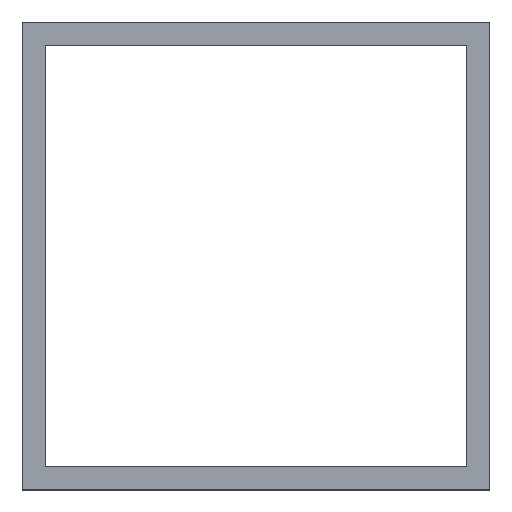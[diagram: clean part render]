
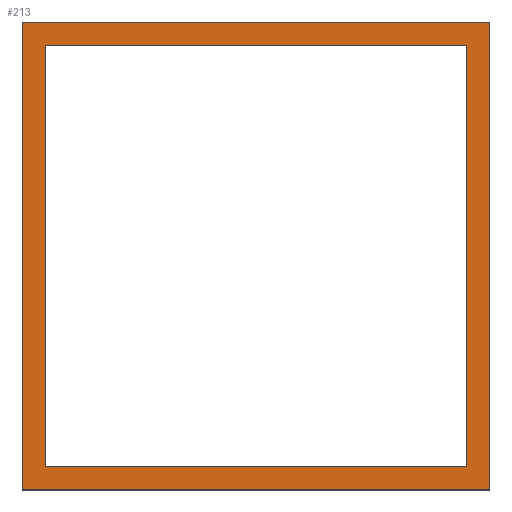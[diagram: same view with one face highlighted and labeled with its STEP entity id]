
A CAD part, top view. The second image highlights one B-rep face of the part: STEP entity #213.
In plain terms, the highlighted planar face has unit normal (0, 0, 1).
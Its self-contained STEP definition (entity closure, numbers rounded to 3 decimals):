
#24 = VERTEX_POINT('',#25);
#25 = CARTESIAN_POINT('',(0.,0.,2.));
#32 = PLANE('',#33);
#33 = AXIS2_PLACEMENT_3D('',#34,#35,#36);
#34 = CARTESIAN_POINT('',(0.,0.,0.));
#35 = DIRECTION('',(1.,0.,-0.));
#36 = DIRECTION('',(0.,0.,1.));
#44 = PLANE('',#45);
#45 = AXIS2_PLACEMENT_3D('',#46,#47,#48);
#46 = CARTESIAN_POINT('',(0.,0.,0.));
#47 = DIRECTION('',(-0.,1.,0.));
#48 = DIRECTION('',(0.,0.,1.));
#85 = VERTEX_POINT('',#86);
#86 = CARTESIAN_POINT('',(0.,20.,2.));
#100 = PLANE('',#101);
#101 = AXIS2_PLACEMENT_3D('',#102,#103,#104);
#102 = CARTESIAN_POINT('',(0.,20.,0.));
#103 = DIRECTION('',(-0.,1.,0.));
#104 = DIRECTION('',(0.,0.,1.));
#112 = EDGE_CURVE('',#24,#85,#113,.T.);
#113 = SURFACE_CURVE('',#114,(#118,#125),.PCURVE_S1.);
#114 = LINE('',#115,#116);
#115 = CARTESIAN_POINT('',(0.,0.,2.));
#116 = VECTOR('',#117,1.);
#117 = DIRECTION('',(-0.,1.,0.));
#118 = PCURVE('',#32,#119);
#119 = DEFINITIONAL_REPRESENTATION('',(#120),#124);
#120 = LINE('',#121,#122);
#121 = CARTESIAN_POINT('',(2.,0.));
#122 = VECTOR('',#123,1.);
#123 = DIRECTION('',(0.,-1.));
#124 = ( GEOMETRIC_REPRESENTATION_CONTEXT(2) 
PARAMETRIC_REPRESENTATION_CONTEXT() REPRESENTATION_CONTEXT('2D SPACE',''
  ) );
#125 = PCURVE('',#126,#131);
#126 = PLANE('',#127);
#127 = AXIS2_PLACEMENT_3D('',#128,#129,#130);
#128 = CARTESIAN_POINT('',(0.,0.,2.));
#129 = DIRECTION('',(0.,0.,1.));
#130 = DIRECTION('',(1.,0.,-0.));
#131 = DEFINITIONAL_REPRESENTATION('',(#132),#136);
#132 = LINE('',#133,#134);
#133 = CARTESIAN_POINT('',(0.,0.));
#134 = VECTOR('',#135,1.);
#135 = DIRECTION('',(0.,1.));
#136 = ( GEOMETRIC_REPRESENTATION_CONTEXT(2) 
PARAMETRIC_REPRESENTATION_CONTEXT() REPRESENTATION_CONTEXT('2D SPACE',''
  ) );
#165 = EDGE_CURVE('',#24,#166,#168,.T.);
#166 = VERTEX_POINT('',#167);
#167 = CARTESIAN_POINT('',(20.,0.,2.));
#168 = SURFACE_CURVE('',#169,(#173,#180),.PCURVE_S1.);
#169 = LINE('',#170,#171);
#170 = CARTESIAN_POINT('',(0.,0.,2.));
#171 = VECTOR('',#172,1.);
#172 = DIRECTION('',(1.,0.,-0.));
#173 = PCURVE('',#44,#174);
#174 = DEFINITIONAL_REPRESENTATION('',(#175),#179);
#175 = LINE('',#176,#177);
#176 = CARTESIAN_POINT('',(2.,0.));
#177 = VECTOR('',#178,1.);
#178 = DIRECTION('',(0.,1.));
#179 = ( GEOMETRIC_REPRESENTATION_CONTEXT(2) 
PARAMETRIC_REPRESENTATION_CONTEXT() REPRESENTATION_CONTEXT('2D SPACE',''
  ) );
#180 = PCURVE('',#126,#181);
#181 = DEFINITIONAL_REPRESENTATION('',(#182),#186);
#182 = LINE('',#183,#184);
#183 = CARTESIAN_POINT('',(0.,0.));
#184 = VECTOR('',#185,1.);
#185 = DIRECTION('',(1.,0.));
#186 = ( GEOMETRIC_REPRESENTATION_CONTEXT(2) 
PARAMETRIC_REPRESENTATION_CONTEXT() REPRESENTATION_CONTEXT('2D SPACE',''
  ) );
#202 = PLANE('',#203);
#203 = AXIS2_PLACEMENT_3D('',#204,#205,#206);
#204 = CARTESIAN_POINT('',(20.,0.,0.));
#205 = DIRECTION('',(1.,0.,-0.));
#206 = DIRECTION('',(0.,0.,1.));
#213 = ADVANCED_FACE('',(#214,#262),#126,.T.);
#214 = FACE_BOUND('',#215,.T.);
#215 = EDGE_LOOP('',(#216,#217,#218,#241));
#216 = ORIENTED_EDGE('',*,*,#112,.F.);
#217 = ORIENTED_EDGE('',*,*,#165,.T.);
#218 = ORIENTED_EDGE('',*,*,#219,.T.);
#219 = EDGE_CURVE('',#166,#220,#222,.T.);
#220 = VERTEX_POINT('',#221);
#221 = CARTESIAN_POINT('',(20.,20.,2.));
#222 = SURFACE_CURVE('',#223,(#227,#234),.PCURVE_S1.);
#223 = LINE('',#224,#225);
#224 = CARTESIAN_POINT('',(20.,0.,2.));
#225 = VECTOR('',#226,1.);
#226 = DIRECTION('',(-0.,1.,0.));
#227 = PCURVE('',#126,#228);
#228 = DEFINITIONAL_REPRESENTATION('',(#229),#233);
#229 = LINE('',#230,#231);
#230 = CARTESIAN_POINT('',(20.,0.));
#231 = VECTOR('',#232,1.);
#232 = DIRECTION('',(0.,1.));
#233 = ( GEOMETRIC_REPRESENTATION_CONTEXT(2) 
PARAMETRIC_REPRESENTATION_CONTEXT() REPRESENTATION_CONTEXT('2D SPACE',''
  ) );
#234 = PCURVE('',#202,#235);
#235 = DEFINITIONAL_REPRESENTATION('',(#236),#240);
#236 = LINE('',#237,#238);
#237 = CARTESIAN_POINT('',(2.,0.));
#238 = VECTOR('',#239,1.);
#239 = DIRECTION('',(0.,-1.));
#240 = ( GEOMETRIC_REPRESENTATION_CONTEXT(2) 
PARAMETRIC_REPRESENTATION_CONTEXT() REPRESENTATION_CONTEXT('2D SPACE',''
  ) );
#241 = ORIENTED_EDGE('',*,*,#242,.F.);
#242 = EDGE_CURVE('',#85,#220,#243,.T.);
#243 = SURFACE_CURVE('',#244,(#248,#255),.PCURVE_S1.);
#244 = LINE('',#245,#246);
#245 = CARTESIAN_POINT('',(0.,20.,2.));
#246 = VECTOR('',#247,1.);
#247 = DIRECTION('',(1.,0.,-0.));
#248 = PCURVE('',#126,#249);
#249 = DEFINITIONAL_REPRESENTATION('',(#250),#254);
#250 = LINE('',#251,#252);
#251 = CARTESIAN_POINT('',(0.,20.));
#252 = VECTOR('',#253,1.);
#253 = DIRECTION('',(1.,0.));
#254 = ( GEOMETRIC_REPRESENTATION_CONTEXT(2) 
PARAMETRIC_REPRESENTATION_CONTEXT() REPRESENTATION_CONTEXT('2D SPACE',''
  ) );
#255 = PCURVE('',#100,#256);
#256 = DEFINITIONAL_REPRESENTATION('',(#257),#261);
#257 = LINE('',#258,#259);
#258 = CARTESIAN_POINT('',(2.,0.));
#259 = VECTOR('',#260,1.);
#260 = DIRECTION('',(0.,1.));
#261 = ( GEOMETRIC_REPRESENTATION_CONTEXT(2) 
PARAMETRIC_REPRESENTATION_CONTEXT() REPRESENTATION_CONTEXT('2D SPACE',''
  ) );
#262 = FACE_BOUND('',#263,.T.);
#263 = EDGE_LOOP('',(#264,#292,#318,#344));
#264 = ORIENTED_EDGE('',*,*,#265,.T.);
#265 = EDGE_CURVE('',#266,#268,#270,.T.);
#266 = VERTEX_POINT('',#267);
#267 = CARTESIAN_POINT('',(19.,1.,2.));
#268 = VERTEX_POINT('',#269);
#269 = CARTESIAN_POINT('',(1.,1.,2.));
#270 = SURFACE_CURVE('',#271,(#275,#281),.PCURVE_S1.);
#271 = LINE('',#272,#273);
#272 = CARTESIAN_POINT('',(0.5,1.,2.));
#273 = VECTOR('',#274,1.);
#274 = DIRECTION('',(-1.,-0.,0.));
#275 = PCURVE('',#126,#276);
#276 = DEFINITIONAL_REPRESENTATION('',(#277),#280);
#277 = B_SPLINE_CURVE_WITH_KNOTS('',1,(#278,#279),.UNSPECIFIED.,.F.,.F.,
  (2,2),(-18.5,-0.5),.PIECEWISE_BEZIER_KNOTS.);
#278 = CARTESIAN_POINT('',(19.,1.));
#279 = CARTESIAN_POINT('',(1.,1.));
#280 = ( GEOMETRIC_REPRESENTATION_CONTEXT(2) 
PARAMETRIC_REPRESENTATION_CONTEXT() REPRESENTATION_CONTEXT('2D SPACE',''
  ) );
#281 = PCURVE('',#282,#287);
#282 = PLANE('',#283);
#283 = AXIS2_PLACEMENT_3D('',#284,#285,#286);
#284 = CARTESIAN_POINT('',(1.,1.,-1.));
#285 = DIRECTION('',(-0.,1.,0.));
#286 = DIRECTION('',(0.,0.,1.));
#287 = DEFINITIONAL_REPRESENTATION('',(#288),#291);
#288 = B_SPLINE_CURVE_WITH_KNOTS('',1,(#289,#290),.UNSPECIFIED.,.F.,.F.,
  (2,2),(-18.5,-0.5),.PIECEWISE_BEZIER_KNOTS.);
#289 = CARTESIAN_POINT('',(3.,18.));
#290 = CARTESIAN_POINT('',(3.,0.));
#291 = ( GEOMETRIC_REPRESENTATION_CONTEXT(2) 
PARAMETRIC_REPRESENTATION_CONTEXT() REPRESENTATION_CONTEXT('2D SPACE',''
  ) );
#292 = ORIENTED_EDGE('',*,*,#293,.T.);
#293 = EDGE_CURVE('',#268,#294,#296,.T.);
#294 = VERTEX_POINT('',#295);
#295 = CARTESIAN_POINT('',(1.,19.,2.));
#296 = SURFACE_CURVE('',#297,(#301,#307),.PCURVE_S1.);
#297 = LINE('',#298,#299);
#298 = CARTESIAN_POINT('',(1.,0.5,2.));
#299 = VECTOR('',#300,1.);
#300 = DIRECTION('',(-0.,1.,0.));
#301 = PCURVE('',#126,#302);
#302 = DEFINITIONAL_REPRESENTATION('',(#303),#306);
#303 = B_SPLINE_CURVE_WITH_KNOTS('',1,(#304,#305),.UNSPECIFIED.,.F.,.F.,
  (2,2),(0.5,18.5),.PIECEWISE_BEZIER_KNOTS.);
#304 = CARTESIAN_POINT('',(1.,1.));
#305 = CARTESIAN_POINT('',(1.,19.));
#306 = ( GEOMETRIC_REPRESENTATION_CONTEXT(2) 
PARAMETRIC_REPRESENTATION_CONTEXT() REPRESENTATION_CONTEXT('2D SPACE',''
  ) );
#307 = PCURVE('',#308,#313);
#308 = PLANE('',#309);
#309 = AXIS2_PLACEMENT_3D('',#310,#311,#312);
#310 = CARTESIAN_POINT('',(1.,1.,-1.));
#311 = DIRECTION('',(1.,0.,-0.));
#312 = DIRECTION('',(0.,0.,1.));
#313 = DEFINITIONAL_REPRESENTATION('',(#314),#317);
#314 = B_SPLINE_CURVE_WITH_KNOTS('',1,(#315,#316),.UNSPECIFIED.,.F.,.F.,
  (2,2),(0.5,18.5),.PIECEWISE_BEZIER_KNOTS.);
#315 = CARTESIAN_POINT('',(3.,0.));
#316 = CARTESIAN_POINT('',(3.,-18.));
#317 = ( GEOMETRIC_REPRESENTATION_CONTEXT(2) 
PARAMETRIC_REPRESENTATION_CONTEXT() REPRESENTATION_CONTEXT('2D SPACE',''
  ) );
#318 = ORIENTED_EDGE('',*,*,#319,.F.);
#319 = EDGE_CURVE('',#320,#294,#322,.T.);
#320 = VERTEX_POINT('',#321);
#321 = CARTESIAN_POINT('',(19.,19.,2.));
#322 = SURFACE_CURVE('',#323,(#327,#333),.PCURVE_S1.);
#323 = LINE('',#324,#325);
#324 = CARTESIAN_POINT('',(0.5,19.,2.));
#325 = VECTOR('',#326,1.);
#326 = DIRECTION('',(-1.,-0.,0.));
#327 = PCURVE('',#126,#328);
#328 = DEFINITIONAL_REPRESENTATION('',(#329),#332);
#329 = B_SPLINE_CURVE_WITH_KNOTS('',1,(#330,#331),.UNSPECIFIED.,.F.,.F.,
  (2,2),(-18.5,-0.5),.PIECEWISE_BEZIER_KNOTS.);
#330 = CARTESIAN_POINT('',(19.,19.));
#331 = CARTESIAN_POINT('',(1.,19.));
#332 = ( GEOMETRIC_REPRESENTATION_CONTEXT(2) 
PARAMETRIC_REPRESENTATION_CONTEXT() REPRESENTATION_CONTEXT('2D SPACE',''
  ) );
#333 = PCURVE('',#334,#339);
#334 = PLANE('',#335);
#335 = AXIS2_PLACEMENT_3D('',#336,#337,#338);
#336 = CARTESIAN_POINT('',(1.,19.,-1.));
#337 = DIRECTION('',(-0.,1.,0.));
#338 = DIRECTION('',(0.,0.,1.));
#339 = DEFINITIONAL_REPRESENTATION('',(#340),#343);
#340 = B_SPLINE_CURVE_WITH_KNOTS('',1,(#341,#342),.UNSPECIFIED.,.F.,.F.,
  (2,2),(-18.5,-0.5),.PIECEWISE_BEZIER_KNOTS.);
#341 = CARTESIAN_POINT('',(3.,18.));
#342 = CARTESIAN_POINT('',(3.,0.));
#343 = ( GEOMETRIC_REPRESENTATION_CONTEXT(2) 
PARAMETRIC_REPRESENTATION_CONTEXT() REPRESENTATION_CONTEXT('2D SPACE',''
  ) );
#344 = ORIENTED_EDGE('',*,*,#345,.F.);
#345 = EDGE_CURVE('',#266,#320,#346,.T.);
#346 = SURFACE_CURVE('',#347,(#351,#357),.PCURVE_S1.);
#347 = LINE('',#348,#349);
#348 = CARTESIAN_POINT('',(19.,0.5,2.));
#349 = VECTOR('',#350,1.);
#350 = DIRECTION('',(-0.,1.,0.));
#351 = PCURVE('',#126,#352);
#352 = DEFINITIONAL_REPRESENTATION('',(#353),#356);
#353 = B_SPLINE_CURVE_WITH_KNOTS('',1,(#354,#355),.UNSPECIFIED.,.F.,.F.,
  (2,2),(0.5,18.5),.PIECEWISE_BEZIER_KNOTS.);
#354 = CARTESIAN_POINT('',(19.,1.));
#355 = CARTESIAN_POINT('',(19.,19.));
#356 = ( GEOMETRIC_REPRESENTATION_CONTEXT(2) 
PARAMETRIC_REPRESENTATION_CONTEXT() REPRESENTATION_CONTEXT('2D SPACE',''
  ) );
#357 = PCURVE('',#358,#363);
#358 = PLANE('',#359);
#359 = AXIS2_PLACEMENT_3D('',#360,#361,#362);
#360 = CARTESIAN_POINT('',(19.,1.,-1.));
#361 = DIRECTION('',(1.,0.,-0.));
#362 = DIRECTION('',(0.,0.,1.));
#363 = DEFINITIONAL_REPRESENTATION('',(#364),#367);
#364 = B_SPLINE_CURVE_WITH_KNOTS('',1,(#365,#366),.UNSPECIFIED.,.F.,.F.,
  (2,2),(0.5,18.5),.PIECEWISE_BEZIER_KNOTS.);
#365 = CARTESIAN_POINT('',(3.,0.));
#366 = CARTESIAN_POINT('',(3.,-18.));
#367 = ( GEOMETRIC_REPRESENTATION_CONTEXT(2) 
PARAMETRIC_REPRESENTATION_CONTEXT() REPRESENTATION_CONTEXT('2D SPACE',''
  ) );
